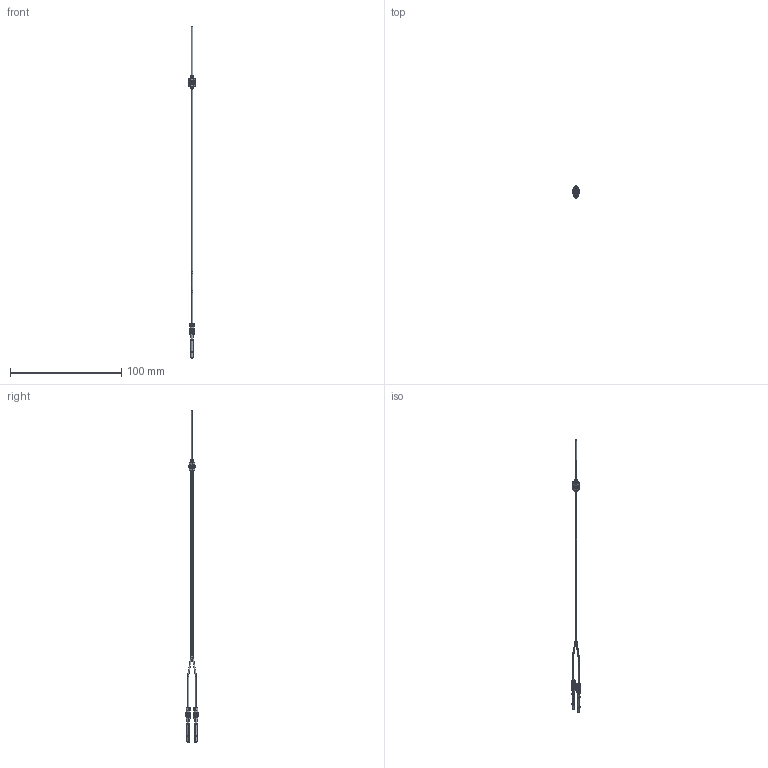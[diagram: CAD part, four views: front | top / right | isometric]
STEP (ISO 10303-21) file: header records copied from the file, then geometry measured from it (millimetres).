
FILE_DESCRIPTION (( 'STEP AP214' ), '1' );
FILE_NAME ('FDS2-320-05.STEP', '2019-06-18T02:31:06', ( '' ), ( '' ), 'SwSTEP 2.0', 'SolidWorks 2018', '' );
FILE_SCHEMA (( 'AUTOMOTIVE_DESIGN' ));
Length unit declared in the file: millimetre
Products named in the file (1): FDS2-320-05
Bounding box: 6.5 x 11 x 299.01 mm (x, y, z)
Volume: 951.5 mm3; surface area: 3039.9 mm2
Topology: 7 solids, 7 shells, 392 faces, 984 edges, 620 vertices
Faces by surface type: cylinder 162, plane 158, cone 43, torus 20, bspline 9
Entity records: 18536 total; most frequent: CARTESIAN_POINT 8842, ORIENTED_EDGE 1968, DIRECTION 1779, EDGE_CURVE 984, AXIS2_PLACEMENT_3D 705, VERTEX_POINT 620, EDGE_LOOP 418, FACE_OUTER_BOUND 392
